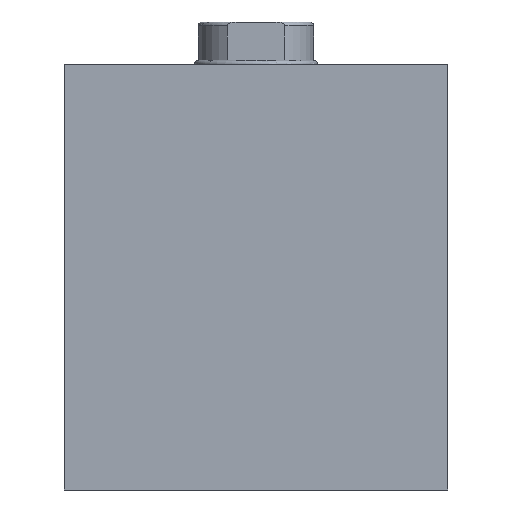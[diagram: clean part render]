
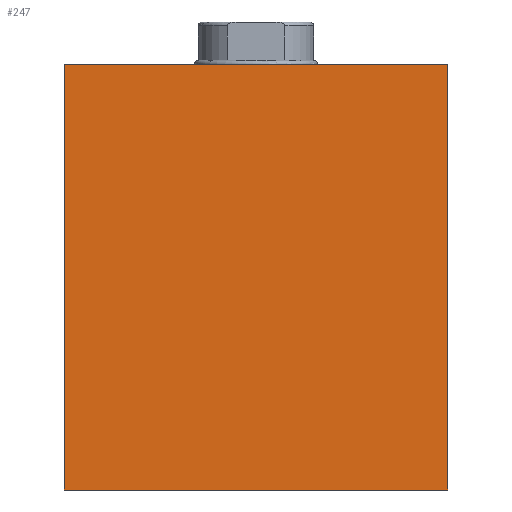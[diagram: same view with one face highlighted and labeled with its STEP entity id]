
A CAD part, left-side view. The second image highlights one B-rep face of the part: STEP entity #247.
In plain terms, the highlighted planar face has unit normal (-1, 0, 0) as drawn and (0, 0, -1) by its records, which use the part's own axes.
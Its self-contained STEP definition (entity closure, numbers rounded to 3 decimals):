
#247 = ADVANCED_FACE( '', ( #338 ), #339, .F. );
#338 = FACE_OUTER_BOUND( '', #554, .T. );
#339 = PLANE( '', #555 );
#554 = EDGE_LOOP( '', ( #789, #790, #791, #792 ) );
#555 = AXIS2_PLACEMENT_3D( '', #793, #794, #795 );
#789 = ORIENTED_EDGE( '', *, *, #1166, .T. );
#790 = ORIENTED_EDGE( '', *, *, #1183, .F. );
#791 = ORIENTED_EDGE( '', *, *, #1178, .F. );
#792 = ORIENTED_EDGE( '', *, *, #1182, .T. );
#793 = CARTESIAN_POINT( '', ( 111., -50., -37.5 ) );
#794 = DIRECTION( '', ( 0., 0., 1. ) );
#795 = DIRECTION( '', ( 1., 0., 0. ) );
#1166 = EDGE_CURVE( '', #1267, #1265, #1268, .T. );
#1178 = EDGE_CURVE( '', #1287, #1289, #1290, .T. );
#1182 = EDGE_CURVE( '', #1287, #1267, #1296, .T. );
#1183 = EDGE_CURVE( '', #1289, #1265, #1297, .T. );
#1265 = VERTEX_POINT( '', #1510 );
#1267 = VERTEX_POINT( '', #1513 );
#1268 = LINE( '', #1514, #1515 );
#1287 = VERTEX_POINT( '', #1706 );
#1289 = VERTEX_POINT( '', #1709 );
#1290 = LINE( '', #1710, #1711 );
#1296 = B_SPLINE_CURVE_WITH_KNOTS( '', 1, ( #1784, #1785 ), .UNSPECIFIED., .F., .F., ( 2, 2 ), ( 0., 1. ), .UNSPECIFIED. );
#1297 = B_SPLINE_CURVE_WITH_KNOTS( '', 1, ( #1786, #1787 ), .UNSPECIFIED., .F., .F., ( 2, 2 ), ( 0., 1. ), .UNSPECIFIED. );
#1510 = CARTESIAN_POINT( '', ( 0., 50., -37.5 ) );
#1513 = CARTESIAN_POINT( '', ( 0., -50., -37.5 ) );
#1514 = CARTESIAN_POINT( '', ( 0., -50., -37.5 ) );
#1515 = VECTOR( '', #4090, 1000. );
#1706 = CARTESIAN_POINT( '', ( 111., -50., -37.5 ) );
#1709 = CARTESIAN_POINT( '', ( 111., 50., -37.5 ) );
#1710 = CARTESIAN_POINT( '', ( 111., -50., -37.5 ) );
#1711 = VECTOR( '', #4097, 1000. );
#1784 = CARTESIAN_POINT( '', ( 111., -50., -37.5 ) );
#1785 = CARTESIAN_POINT( '', ( 0., -50., -37.5 ) );
#1786 = CARTESIAN_POINT( '', ( 111., 50., -37.5 ) );
#1787 = CARTESIAN_POINT( '', ( 0., 50., -37.5 ) );
#4090 = DIRECTION( '', ( 0., 1., 0. ) );
#4097 = DIRECTION( '', ( 0., 1., 0. ) );
